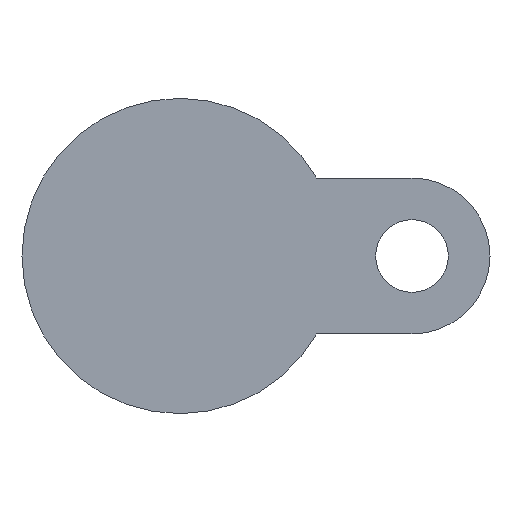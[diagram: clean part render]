
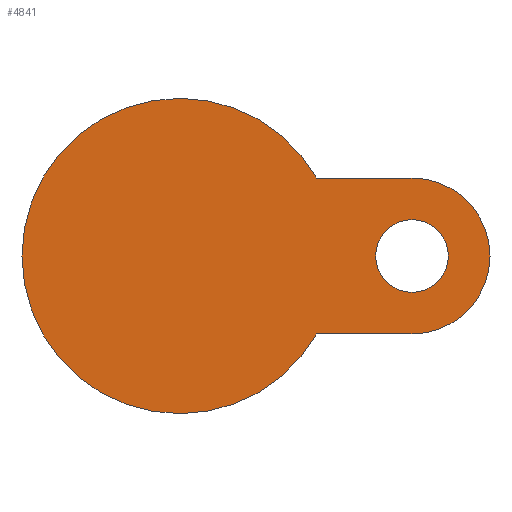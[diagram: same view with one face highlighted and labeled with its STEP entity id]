
A CAD part, front view. The second image highlights one B-rep face of the part: STEP entity #4841.
In plain terms, the highlighted planar face has unit normal (0, -1, 0).
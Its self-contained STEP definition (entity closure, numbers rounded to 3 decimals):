
#26 = CARTESIAN_POINT ( 'NONE',  ( 56., -17., 0. ) ) ;
#120 = CARTESIAN_POINT ( 'NONE',  ( 56., -17., -18.8 ) ) ;
#237 = DIRECTION ( 'NONE',  ( 0., 1., 0. ) ) ;
#282 = EDGE_CURVE ( 'NONE', #4612, #822, #2609, .T. ) ;
#353 = CIRCLE ( 'NONE', #4163, 38. ) ;
#550 = ORIENTED_EDGE ( 'NONE', *, *, #4115, .F. ) ;
#615 = CARTESIAN_POINT ( 'NONE',  ( 56., -17., 0. ) ) ;
#630 = ORIENTED_EDGE ( 'NONE', *, *, #4014, .T. ) ;
#698 = CARTESIAN_POINT ( 'NONE',  ( 33.024, -17., 18.8 ) ) ;
#710 = AXIS2_PLACEMENT_3D ( 'NONE', #615, #1498, #2752 ) ;
#812 = FACE_OUTER_BOUND ( 'NONE', #5390, .T. ) ;
#822 = VERTEX_POINT ( 'NONE', #2836 ) ;
#895 = DIRECTION ( 'NONE',  ( 1., 0., 0. ) ) ;
#994 = EDGE_CURVE ( 'NONE', #3357, #5381, #1182, .T. ) ;
#1182 = CIRCLE ( 'NONE', #3315, 8.75 ) ;
#1205 = ORIENTED_EDGE ( 'NONE', *, *, #3911, .T. ) ;
#1286 = DIRECTION ( 'NONE',  ( 0., -1., 0. ) ) ;
#1498 = DIRECTION ( 'NONE',  ( 0., -1., 0. ) ) ;
#1704 = FACE_BOUND ( 'NONE', #4953, .T. ) ;
#1709 = ORIENTED_EDGE ( 'NONE', *, *, #4122, .T. ) ;
#1710 = VERTEX_POINT ( 'NONE', #120 ) ;
#1738 = DIRECTION ( 'NONE',  ( -1., 0., 0. ) ) ;
#1865 = VECTOR ( 'NONE', #2266, 1000. ) ;
#1954 = DIRECTION ( 'NONE',  ( -1., 0., 0. ) ) ;
#2157 = CARTESIAN_POINT ( 'NONE',  ( 0., -17., 0. ) ) ;
#2266 = DIRECTION ( 'NONE',  ( -1., 0., 0. ) ) ;
#2313 = AXIS2_PLACEMENT_3D ( 'NONE', #4258, #3012, #895 ) ;
#2355 = CARTESIAN_POINT ( 'NONE',  ( 0., -17., 0. ) ) ;
#2508 = DIRECTION ( 'NONE',  ( 1., 0., 0. ) ) ;
#2523 = ORIENTED_EDGE ( 'NONE', *, *, #994, .F. ) ;
#2538 = CARTESIAN_POINT ( 'NONE',  ( 56., -17., -18.8 ) ) ;
#2609 = CIRCLE ( 'NONE', #3588, 38. ) ;
#2679 = ORIENTED_EDGE ( 'NONE', *, *, #5256, .T. ) ;
#2752 = DIRECTION ( 'NONE',  ( 1., 0., 0. ) ) ;
#2836 = CARTESIAN_POINT ( 'NONE',  ( -38., -17., 0. ) ) ;
#2870 = CARTESIAN_POINT ( 'NONE',  ( 56., -17., 0. ) ) ;
#2987 = DIRECTION ( 'NONE',  ( 1., 0., 0. ) ) ;
#3012 = DIRECTION ( 'NONE',  ( 0., -1., 0. ) ) ;
#3075 = VERTEX_POINT ( 'NONE', #698 ) ;
#3137 = CARTESIAN_POINT ( 'NONE',  ( 33.024, -17., -18.8 ) ) ;
#3315 = AXIS2_PLACEMENT_3D ( 'NONE', #26, #4271, #3383 ) ;
#3357 = VERTEX_POINT ( 'NONE', #4779 ) ;
#3365 = AXIS2_PLACEMENT_3D ( 'NONE', #2870, #3645, #4141 ) ;
#3375 = VECTOR ( 'NONE', #2508, 1000. ) ;
#3383 = DIRECTION ( 'NONE',  ( 1., 0., 0. ) ) ;
#3588 = AXIS2_PLACEMENT_3D ( 'NONE', #2157, #3850, #1738 ) ;
#3645 = DIRECTION ( 'NONE',  ( 0., -1., 0. ) ) ;
#3813 = CARTESIAN_POINT ( 'NONE',  ( 56., -17., 0. ) ) ;
#3850 = DIRECTION ( 'NONE',  ( 0., 1., 0. ) ) ;
#3911 = EDGE_CURVE ( 'NONE', #1710, #4415, #4693, .T. ) ;
#4004 = CIRCLE ( 'NONE', #3365, 18.8 ) ;
#4014 = EDGE_CURVE ( 'NONE', #5493, #3075, #5315, .T. ) ;
#4108 = ORIENTED_EDGE ( 'NONE', *, *, #5370, .F. ) ;
#4115 = EDGE_CURVE ( 'NONE', #822, #3075, #353, .T. ) ;
#4122 = EDGE_CURVE ( 'NONE', #4415, #5493, #4004, .T. ) ;
#4141 = DIRECTION ( 'NONE',  ( 1., 0., 0. ) ) ;
#4163 = AXIS2_PLACEMENT_3D ( 'NONE', #2355, #237, #1954 ) ;
#4258 = CARTESIAN_POINT ( 'NONE',  ( 0., -17., 0. ) ) ;
#4271 = DIRECTION ( 'NONE',  ( 0., -1., 0. ) ) ;
#4415 = VERTEX_POINT ( 'NONE', #4998 ) ;
#4440 = CARTESIAN_POINT ( 'NONE',  ( 56., -17., 18.8 ) ) ;
#4612 = VERTEX_POINT ( 'NONE', #3137 ) ;
#4693 = CIRCLE ( 'NONE', #710, 18.8 ) ;
#4706 = LINE ( 'NONE', #2538, #3375 ) ;
#4714 = AXIS2_PLACEMENT_3D ( 'NONE', #3813, #1286, #2987 ) ;
#4715 = ORIENTED_EDGE ( 'NONE', *, *, #282, .F. ) ;
#4739 = CARTESIAN_POINT ( 'NONE',  ( 64.75, -17., 0. ) ) ;
#4779 = CARTESIAN_POINT ( 'NONE',  ( 47.25, -17., 0. ) ) ;
#4809 = CIRCLE ( 'NONE', #4714, 8.75 ) ;
#4841 = ADVANCED_FACE ( 'NONE', ( #812, #1704 ), #5132, .T. ) ;
#4953 = EDGE_LOOP ( 'NONE', ( #4108, #2523 ) ) ;
#4998 = CARTESIAN_POINT ( 'NONE',  ( 74.8, -17., 0. ) ) ;
#5132 = PLANE ( 'NONE',  #2313 ) ;
#5214 = CARTESIAN_POINT ( 'NONE',  ( 20.593, -17., 18.8 ) ) ;
#5256 = EDGE_CURVE ( 'NONE', #4612, #1710, #4706, .T. ) ;
#5315 = LINE ( 'NONE', #5214, #1865 ) ;
#5370 = EDGE_CURVE ( 'NONE', #5381, #3357, #4809, .T. ) ;
#5381 = VERTEX_POINT ( 'NONE', #4739 ) ;
#5390 = EDGE_LOOP ( 'NONE', ( #4715, #2679, #1205, #1709, #630, #550 ) ) ;
#5493 = VERTEX_POINT ( 'NONE', #4440 ) ;
